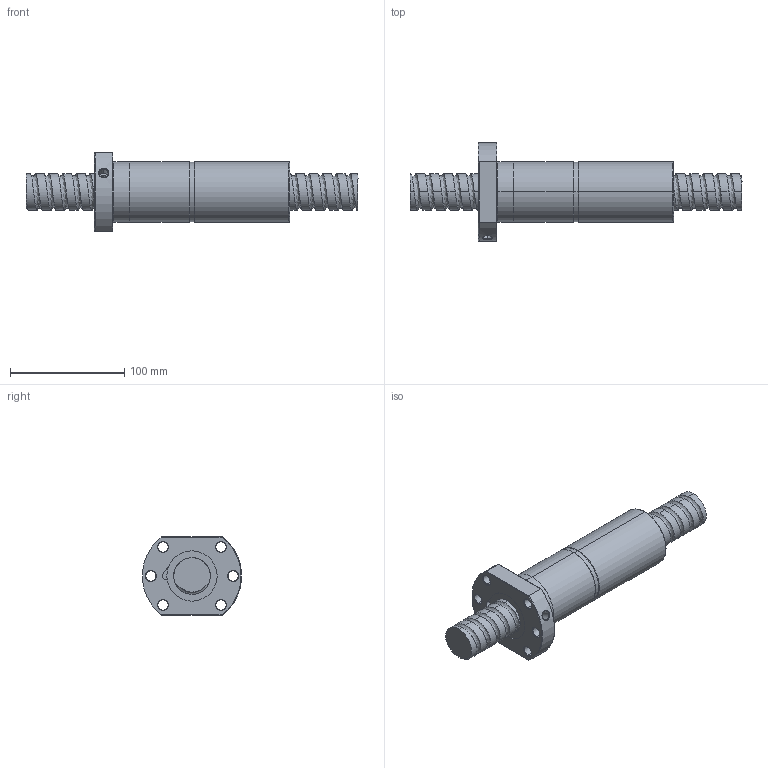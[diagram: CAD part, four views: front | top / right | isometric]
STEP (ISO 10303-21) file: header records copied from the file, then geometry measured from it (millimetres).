
FILE_DESCRIPTION (( 'STEP AP214' ), '1' );
FILE_NAME ('FDDC03212T5-D-C.STEP', '2010-07-06T05:19:51', ( 'XPAUTO' ), ( 'XPAUTO' ), 'SwSTEP 2.0', 'SolidWorks 2007', '' );
FILE_SCHEMA (( 'AUTOMOTIVE_DESIGN' ));
Length unit declared in the file: millimetre
Products named in the file (3): FDDC03212T5-D-C; FDDC03212T5-D-C.sldasm-Part-2_預設; FDDC03212T5-D-C.sldasm-Part-1_預設
Assembly tree (2 placements, depth 2):
  FDDC03212T5-D-C
    FDDC03212T5-D-C.sldasm-Part-1_預設
    FDDC03212T5-D-C.sldasm-Part-2_預設
Bounding box: 291 x 86.7 x 69 mm (x, y, z)
Volume: 496366.6 mm3; surface area: 93171.2 mm2
Topology: 2 solids, 2 shells, 151 faces, 383 edges, 241 vertices
Faces by surface type: cylinder 92, cone 24, plane 22, torus 8, bspline 5
Entity records: 31486 total; most frequent: CARTESIAN_POINT 27912, ORIENTED_EDGE 766, DIRECTION 677, EDGE_CURVE 383, AXIS2_PLACEMENT_3D 272, VERTEX_POINT 241, EDGE_LOOP 172, FACE_OUTER_BOUND 151
